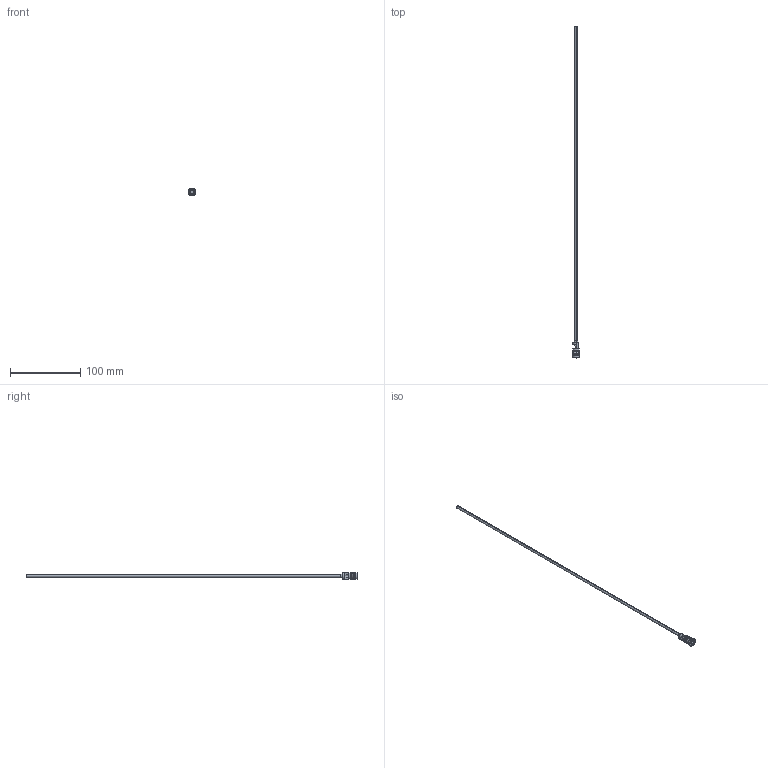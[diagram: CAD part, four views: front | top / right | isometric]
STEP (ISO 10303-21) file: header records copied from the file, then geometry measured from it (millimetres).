
FILE_DESCRIPTION (( 'STEP AP203' ), '1' );
FILE_NAME ('RF-10Fx450-4.STEP', '2015-11-20T08:26:36', ( 'Balzi' ), ( '' ), 'SwSTEP 2.0', 'SolidWorks 2015', '' );
FILE_SCHEMA (( 'CONFIG_CONTROL_DESIGN' ));
Length unit declared in the file: millimetre
Products named in the file (1): RF-10Fx450-4
Bounding box: 11.3 x 472.5 x 11.3 mm (x, y, z)
Volume: 2540.5 mm3; surface area: 11899.1 mm2
Topology: 1 solids, 1 shells, 71 faces, 164 edges, 102 vertices
Faces by surface type: plane 26, cylinder 25, cone 12, torus 8
Entity records: 2114 total; most frequent: DIRECTION 385, CARTESIAN_POINT 357, ORIENTED_EDGE 328, EDGE_CURVE 164, AXIS2_PLACEMENT_3D 154, VERTEX_POINT 102, CIRCLE 82, EDGE_LOOP 80
